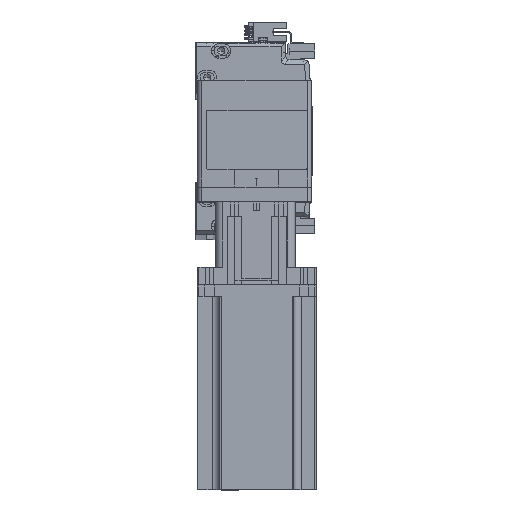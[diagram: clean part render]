
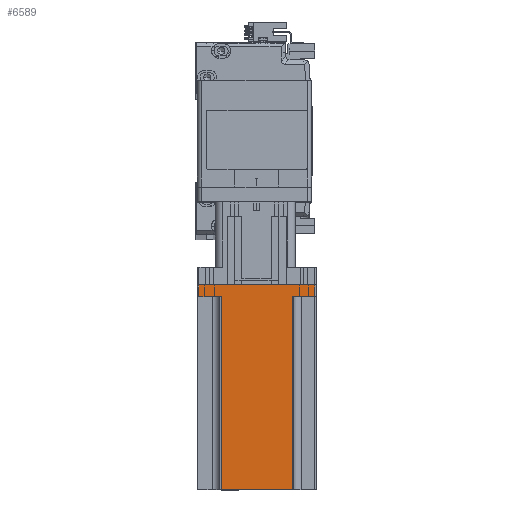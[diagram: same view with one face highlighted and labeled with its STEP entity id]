
A CAD part, top view. The second image highlights one B-rep face of the part: STEP entity #6589.
In plain terms, the highlighted planar face has unit normal (0, 0, 1) as drawn and (0, 1, 0) by its records, which use the part's own axes.
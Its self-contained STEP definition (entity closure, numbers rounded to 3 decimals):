
#1376 = EDGE_CURVE ( 'NONE', #28322, #5213, #16750, .T. ) ;
#1442 = DIRECTION ( 'NONE',  ( 0., 0., -1. ) ) ;
#1718 = DIRECTION ( 'NONE',  ( 1., 0., 0. ) ) ;
#1748 = VERTEX_POINT ( 'NONE', #51181 ) ;
#2375 = DIRECTION ( 'NONE',  ( -1., 0., 0. ) ) ;
#2769 = LINE ( 'NONE', #59642, #26186 ) ;
#2880 = DIRECTION ( 'NONE',  ( 1., 0., 0. ) ) ;
#4390 = VECTOR ( 'NONE', #2375, 1000. ) ;
#5213 = VERTEX_POINT ( 'NONE', #53708 ) ;
#5398 = VECTOR ( 'NONE', #29608, 1000. ) ;
#6589 = ADVANCED_FACE ( 'NONE', ( #28020 ), #46307, .F. ) ;
#9312 = DIRECTION ( 'NONE',  ( 0., 0., 1. ) ) ;
#9497 = ORIENTED_EDGE ( 'NONE', *, *, #1376, .T. ) ;
#10122 = ORIENTED_EDGE ( 'NONE', *, *, #11538, .T. ) ;
#11538 = EDGE_CURVE ( 'NONE', #52871, #28322, #25739, .T. ) ;
#11607 = CARTESIAN_POINT ( 'NONE',  ( 40., 40., 0. ) ) ;
#13283 = VECTOR ( 'NONE', #9312, 1000. ) ;
#13740 = VECTOR ( 'NONE', #13948, 1000. ) ;
#13948 = DIRECTION ( 'NONE',  ( -1., 0., 0. ) ) ;
#13996 = CARTESIAN_POINT ( 'NONE',  ( 39., 40., 0. ) ) ;
#15560 = ORIENTED_EDGE ( 'NONE', *, *, #27269, .T. ) ;
#16046 = LINE ( 'NONE', #22915, #27015 ) ;
#16750 = LINE ( 'NONE', #29760, #29222 ) ;
#20468 = EDGE_CURVE ( 'NONE', #41123, #25912, #16046, .T. ) ;
#21432 = VERTEX_POINT ( 'NONE', #13996 ) ;
#22915 = CARTESIAN_POINT ( 'NONE',  ( 24., 40., 138.3 ) ) ;
#24555 = ORIENTED_EDGE ( 'NONE', *, *, #20468, .T. ) ;
#25739 = LINE ( 'NONE', #55770, #13283 ) ;
#25912 = VERTEX_POINT ( 'NONE', #40391 ) ;
#26186 = VECTOR ( 'NONE', #27049, 1000. ) ;
#27015 = VECTOR ( 'NONE', #60202, 1000. ) ;
#27049 = DIRECTION ( 'NONE',  ( -1., 0., 0. ) ) ;
#27269 = EDGE_CURVE ( 'NONE', #21432, #52871, #41696, .T. ) ;
#27318 = EDGE_LOOP ( 'NONE', ( #9497, #27388, #58140, #24555, #37411, #58173, #15560, #10122 ) ) ;
#27388 = ORIENTED_EDGE ( 'NONE', *, *, #53317, .T. ) ;
#28020 = FACE_OUTER_BOUND ( 'NONE', #27318, .T. ) ;
#28322 = VERTEX_POINT ( 'NONE', #57108 ) ;
#29222 = VECTOR ( 'NONE', #1718, 1000. ) ;
#29483 = CARTESIAN_POINT ( 'NONE',  ( 39., 40., 138.3 ) ) ;
#29608 = DIRECTION ( 'NONE',  ( 0., 0., 1. ) ) ;
#29760 = CARTESIAN_POINT ( 'NONE',  ( -25., 40., 8. ) ) ;
#30485 = CARTESIAN_POINT ( 'NONE',  ( -39., 40., 0. ) ) ;
#30925 = DIRECTION ( 'NONE',  ( 0., -1., 0. ) ) ;
#31220 = CARTESIAN_POINT ( 'NONE',  ( 24., 40., 138.3 ) ) ;
#34053 = CARTESIAN_POINT ( 'NONE',  ( -24., 40., 138.3 ) ) ;
#37411 = ORIENTED_EDGE ( 'NONE', *, *, #56711, .F. ) ;
#40391 = CARTESIAN_POINT ( 'NONE',  ( 24., 40., 8. ) ) ;
#40461 = AXIS2_PLACEMENT_3D ( 'NONE', #58979, #30925, #2880 ) ;
#41123 = VERTEX_POINT ( 'NONE', #31220 ) ;
#41696 = LINE ( 'NONE', #11607, #4390 ) ;
#46307 = PLANE ( 'NONE',  #40461 ) ;
#46635 = CARTESIAN_POINT ( 'NONE',  ( 25., 40., 8. ) ) ;
#47933 = VERTEX_POINT ( 'NONE', #50737 ) ;
#50737 = CARTESIAN_POINT ( 'NONE',  ( 39., 40., 8. ) ) ;
#51181 = CARTESIAN_POINT ( 'NONE',  ( -24., 40., 138.3 ) ) ;
#52577 = LINE ( 'NONE', #46635, #13740 ) ;
#52871 = VERTEX_POINT ( 'NONE', #30485 ) ;
#53317 = EDGE_CURVE ( 'NONE', #5213, #1748, #53730, .T. ) ;
#53708 = CARTESIAN_POINT ( 'NONE',  ( -24., 40., 8. ) ) ;
#53730 = LINE ( 'NONE', #34053, #5398 ) ;
#54904 = LINE ( 'NONE', #29483, #56391 ) ;
#55266 = EDGE_CURVE ( 'NONE', #47933, #21432, #54904, .T. ) ;
#55770 = CARTESIAN_POINT ( 'NONE',  ( -39., 40., 138.3 ) ) ;
#56391 = VECTOR ( 'NONE', #1442, 1000. ) ;
#56711 = EDGE_CURVE ( 'NONE', #47933, #25912, #52577, .T. ) ;
#57108 = CARTESIAN_POINT ( 'NONE',  ( -39., 40., 8. ) ) ;
#58140 = ORIENTED_EDGE ( 'NONE', *, *, #59775, .F. ) ;
#58173 = ORIENTED_EDGE ( 'NONE', *, *, #55266, .T. ) ;
#58979 = CARTESIAN_POINT ( 'NONE',  ( 40., 40., 138.3 ) ) ;
#59642 = CARTESIAN_POINT ( 'NONE',  ( 40., 40., 138.3 ) ) ;
#59775 = EDGE_CURVE ( 'NONE', #41123, #1748, #2769, .T. ) ;
#60202 = DIRECTION ( 'NONE',  ( 0., 0., -1. ) ) ;
